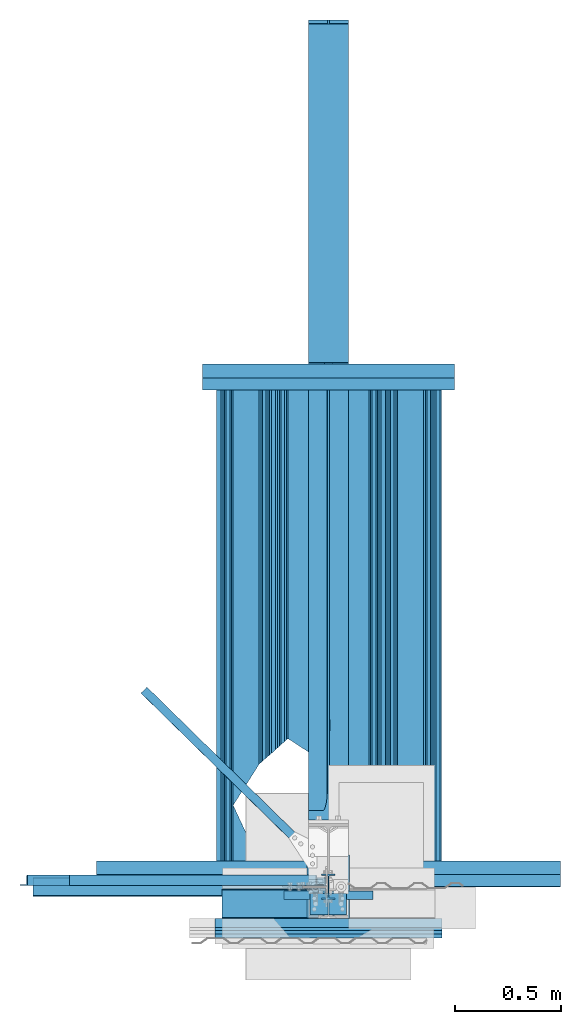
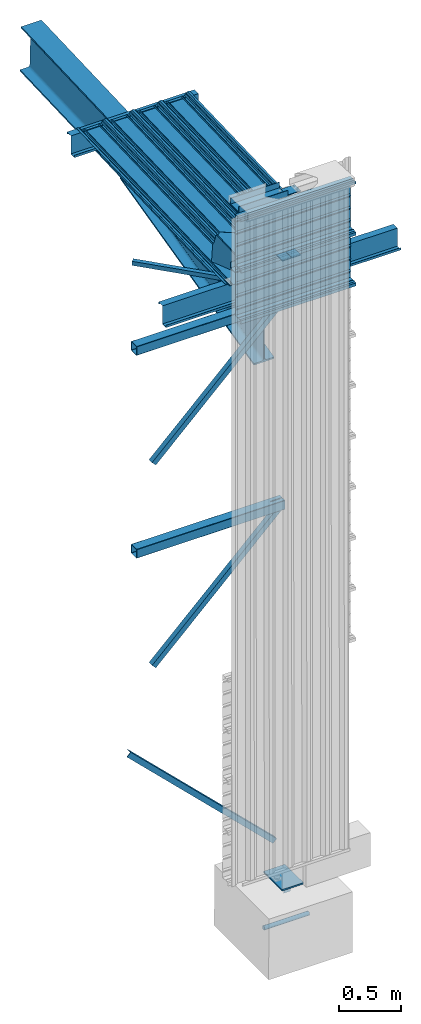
# One storey, part 2 of 18: 21 beams, 3 openings, 19 elements without a shape of their own.
"""IFC2X3 building model written with IfcOpenShell, lengths in millimetres."""

from ifc_helpers import new_model, si_unit, frame, origin_with_axes, origin_2d_with_axis, place, context, subcontext, project, spatial, polyline, rectangle, hollow_rectangle, circle, i_section, l_section, u_section, outline, extrude, clip, halfspace, faceted_brep, material, type_object, element, aggregate, save


model = new_model("IFC2X3")

# Units and contexts
model_context = context("Model", 3, precision=1e-05, world=origin_with_axes())
body_context = subcontext(model_context, "Body", "Model", "MODEL_VIEW")
ifc_project = project(units=[si_unit("LENGTHUNIT", "METRE", prefix="MILLI"), si_unit("AREAUNIT", "SQUARE_METRE"), si_unit("VOLUMEUNIT", "CUBIC_METRE"), si_unit("MASSUNIT", "GRAM", prefix="KILO"), si_unit("TIMEUNIT", "SECOND"), si_unit("PLANEANGLEUNIT", "RADIAN"), si_unit("SOLIDANGLEUNIT", "STERADIAN"), si_unit("THERMODYNAMICTEMPERATUREUNIT", "DEGREE_CELSIUS"), si_unit("LUMINOUSINTENSITYUNIT", "LUMEN")], contexts=[model_context])

# Site, building, storey
site_placement = place(None, origin_with_axes())
site = spatial("IfcSite", under=ifc_project, at=site_placement, Name="Undefined", CompositionType="ELEMENT")
building_placement = place(site_placement, origin_with_axes())
building = spatial("IfcBuilding", under=site, at=building_placement, Name="Undefined", CompositionType="ELEMENT")
storey_placement = place(building_placement, origin_with_axes())
storey = spatial("IfcBuildingStorey", under=building, at=storey_placement, Name="Undefined", CompositionType="ELEMENT", Elevation=0.0)

# Assembly, beam
assembly_1_placement = place(storey_placement, frame((2.44931001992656, -156.908239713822, 5896.01718311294), z_axis=(0.0, 0.999999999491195, 3.190000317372e-05), x_axis=(1.0, 0.0, 0.0)))
assembly_1 = element("IfcElementAssembly", 1, at=assembly_1_placement, inside=storey, Name="plat", PredefinedType="NOTDEFINED")
ifc_material = material(Name="STEEL/S235JR")
beam_type_1 = type_object("IfcBeamType", Name="100*8", PredefinedType="NOTDEFINED")
beam_1_placement = place(storey_placement, frame((2.44931001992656, -156.908239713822, 5896.01718311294), z_axis=(0.0, 0.999999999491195, 3.190000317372e-05), x_axis=(1.0, 0.0, 0.0)))
beam_1 = element("IfcBeam", 2, at=beam_1_placement, type_object=beam_type_1, material=ifc_material, Name="plat", ObjectType="100*8", context=body_context, shape_type="SweptSolid", body=[
    extrude(rectangle(XDim=8.0, YDim=100.0, at=origin_2d_with_axis()), frame((84.0000000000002, 9.09494701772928e-13, 0.0), z_axis=(-1.0, 0.0, 0.0), x_axis=(0.0, -1.0, -6.7762635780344e-21)), (0.0, 0.0, 1.0), 84.0000000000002),
])
aggregate(assembly_1, [beam_1])

# Assembly, beams
assembly_2_placement = place(storey_placement, frame((7.29021710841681e-10, -154.999999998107, 5499.99998252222), z_axis=(0.0, 1.0, 0.0), x_axis=(0.0, 0.0, 1.0)))
assembly_2 = element("IfcElementAssembly", 3, at=assembly_2_placement, inside=storey, Name="Baïonnette", PredefinedType="NOTDEFINED")
beam_2_placement = place(storey_placement, frame((86.3500001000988, -154.999864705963, 6526.00000000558), z_axis=(0.0, 0.999999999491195, 3.190000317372e-05), x_axis=(-1.0, 0.0, 0.0)))
beam_2 = element("IfcBeam", 4, at=beam_2_placement, type_object=beam_type_1, material=ifc_material, Name="ABOUT BAIONNETTE", ObjectType="100*8", context=body_context, shape_type="SweptSolid", body=[
    extrude(rectangle(XDim=8.0, YDim=100.0, at=origin_2d_with_axis()), frame((172.7, 0.0, -1.36584942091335e-23), z_axis=(-1.0, 0.0, 0.0), x_axis=(0.0, -1.0, -6.7762635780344e-21)), (0.0, 0.0, 1.0), 172.7),
])
beam_3_placement = place(storey_placement, frame((-2.45068997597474, -156.908239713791, 5896.01718311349), z_axis=(0.0, 0.999999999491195, 3.190000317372e-05), x_axis=(-1.0, 0.0, 0.0)))
beam_3 = element("IfcBeam", 5, at=beam_3_placement, type_object=beam_type_1, material=ifc_material, Name="plat", ObjectType="100*8", context=body_context, shape_type="SweptSolid", body=[
    extrude(rectangle(XDim=8.0, YDim=100.0, at=origin_2d_with_axis()), frame((84.0000000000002, 9.09494701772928e-13, 0.0), z_axis=(-1.0, 0.0, 0.0), x_axis=(0.0, -1.0, -6.7762635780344e-21)), (0.0, 0.0, 1.0), 84.0000000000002),
])
aggregate(assembly_2, [beam_2, beam_3])

# Assembly, beam
assembly_3_placement = place(storey_placement, frame((-502.349999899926, -155.000950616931, 6559.9999999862), z_axis=(0.0, 0.999999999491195, 3.190000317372e-05), x_axis=(1.0, 0.0, 0.0)))
assembly_3 = element("IfcElementAssembly", 6, at=assembly_3_placement, inside=storey, Name="lisseBasse", PredefinedType="NOTDEFINED")
beam_type_2 = type_object("IfcBeamType", Name="UPF-140*60*4", PredefinedType="NOTDEFINED")
beam_4_placement = place(storey_placement, frame((-502.349999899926, -155.000950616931, 6559.9999999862), z_axis=(0.0, 0.999999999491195, 3.190000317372e-05), x_axis=(1.0, 0.0, 0.0)))
beam_4 = element("IfcBeam", 7, at=beam_4_placement, type_object=beam_type_2, material=ifc_material, Name="LISSE HAUTE", ObjectType="UPF-140*60*4", context=body_context, shape_type="Clipping", body=[
    clip(extrude(u_section(Depth=140.0, FlangeWidth=60.0, WebThickness=4.0, FlangeThickness=4.0, at=origin_2d_with_axis()), frame((504.699999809, 0.0, 0.0), z_axis=(-1.0, 0.0, 0.0), x_axis=(0.0, -1.0, -6.7762635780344e-21)), (0.0, 0.0, 1.0), 504.699999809), halfspace(frame((455.85, -30.0000028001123, -69.9999979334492), z_axis=(1.0, 0.0, 0.0), x_axis=(0.0, 0.0, 1.0)), False)),
])
aggregate(assembly_3, [beam_4])

assembly_4_placement = place(storey_placement, frame((-502.349999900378, -154.978240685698, 5929.55000034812), z_axis=(0.0, 0.999999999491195, 3.190000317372e-05), x_axis=(1.0, 0.0, 0.0)))
assembly_4 = element("IfcElementAssembly", 8, at=assembly_4_placement, inside=storey, Name="lisseBasse", PredefinedType="NOTDEFINED")
beam_5_placement = place(storey_placement, frame((-502.349999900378, -154.978240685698, 5929.55000034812), z_axis=(0.0, 0.999999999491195, 3.190000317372e-05), x_axis=(1.0, 0.0, 0.0)))
beam_5 = element("IfcBeam", 9, at=beam_5_placement, type_object=beam_type_2, material=ifc_material, Name="LISSE BASSE", ObjectType="UPF-140*60*4", context=body_context, shape_type="Clipping", body=[
    clip(extrude(u_section(Depth=140.0, FlangeWidth=60.0, WebThickness=4.0, FlangeThickness=4.0, at=origin_2d_with_axis()), frame((504.699999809, 0.0, 0.0), z_axis=(-1.0, 0.0, 0.0), x_axis=(0.0, -1.0, -6.7762635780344e-21)), (0.0, 0.0, 1.0), 504.699999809), halfspace(frame((455.85, -30.0000028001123, -69.9999979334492), z_axis=(1.0, 0.0, 0.0), x_axis=(0.0, 0.0, 1.0)), False)),
])
aggregate(assembly_4, [beam_5])

assembly_5_placement = place(storey_placement, frame((209.999999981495, -115.001019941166, -691.000000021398), z_axis=(0.0, 0.999999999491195, 3.190000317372e-05), x_axis=(-1.0, 0.0, 0.0)))
assembly_5 = element("IfcElementAssembly", 10, at=assembly_5_placement, inside=storey, Name="clé", PredefinedType="NOTDEFINED")
beam_type_3 = type_object("IfcBeamType", Name="D40", PredefinedType="NOTDEFINED")
beam_6_placement = place(storey_placement, frame((209.999999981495, -115.001019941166, -691.000000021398), z_axis=(0.0, 0.999999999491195, 3.190000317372e-05), x_axis=(-1.0, 0.0, 0.0)))
beam_6 = element("IfcBeam", 11, at=beam_6_placement, type_object=beam_type_3, material=ifc_material, Name="CLE", ObjectType="D40", context=body_context, shape_type="SweptSolid", body=[
    extrude(circle(Radius=20.0, at=origin_2d_with_axis()), frame((419.99999996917, -1.13686837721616e-13, 0.0), z_axis=(-1.0, 0.0, 0.0), x_axis=(0.0, -1.0, -6.7762635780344e-21)), (0.0, 0.0, 1.0), 419.99999996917),
])
aggregate(assembly_5, [beam_6])

assembly_6_placement = place(storey_placement, frame((-536.49999999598, -270.97606509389, 5779.99853120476), z_axis=(0.0, 0.999999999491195, 3.190000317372e-05), x_axis=(1.0, 0.0, 0.0)))
assembly_6 = element("IfcElementAssembly", 12, at=assembly_6_placement, inside=storey, Name="bac", PredefinedType="NOTDEFINED")
beam_type_4 = type_object("IfcBeamType", Name="ARCLAD_FPB_MURESCO_1.500.90_BS_75", PredefinedType="NOTDEFINED")
beam_7_placement = place(storey_placement, frame((-536.49999999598, -270.97606509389, 5779.99853120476), z_axis=(0.0, 0.999999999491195, 3.190000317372e-05), x_axis=(1.0, 0.0, 0.0)))
beam_7 = element("IfcBeam", 13, at=beam_7_placement, type_object=beam_type_4, material=ifc_material, Name="BAC", ObjectType="ARCLAD_FPB_MURESCO_1.500.90_BS_75", context=body_context, shape_type="SweptSolid", body=[
    extrude(outline(polyline([(-278.0, -36.0), (-279.0, -36.0), (-279.0, -46.0), (-249.0, -46.0), (-249.0, -26.3500003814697), (-241.050003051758, -10.6700000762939), (-249.0, 5.01999998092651), (-249.0, 45.0), (-200.679992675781, 45.0), (-185.0, 37.0499992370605), (-169.320007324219, 45.0), (-77.3499984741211, 45.0), (-61.6699981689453, 37.0499992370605), (-45.9799995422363, 45.0), (45.9799995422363, 45.0), (61.6699981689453, 37.0499992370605), (77.3499984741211, 45.0), (169.320007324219, 45.0), (185.0, 37.0499992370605), (200.679992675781, 45.0), (249.0, 45.0), (249.0, 5.01999998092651), (241.050003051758, -10.6700000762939), (249.0, -26.3500003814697), (249.0, -44.0), (230.330001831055, -44.0), (225.949996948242, -40.7400016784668), (225.350006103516, -41.5400009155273), (230.0, -45.0), (250.0, -45.0), (250.0, -26.1100006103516), (242.169998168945, -10.6700000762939), (250.0, 4.78000020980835), (250.0, 46.0), (200.440002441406, 46.0), (185.0, 38.1699981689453), (169.559997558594, 46.0), (77.1100006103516, 46.0), (61.6699981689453, 38.1699981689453), (46.2200012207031, 46.0), (-46.2200012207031, 46.0), (-61.6699981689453, 38.1699981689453), (-77.1100006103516, 46.0), (-169.559997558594, 46.0), (-185.0, 38.1699981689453), (-200.440002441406, 46.0), (-250.0, 46.0), (-250.0, 4.78000020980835), (-242.169998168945, -10.6700000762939), (-250.0, -26.1100006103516), (-250.0, -45.0), (-278.0, -45.0), (-278.0, -36.0)])), frame((1073.0, 0.0, -3.55441926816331e-28), z_axis=(-1.0, 0.0, 0.0), x_axis=(0.0, -1.0, -6.7762635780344e-21)), (0.0, 0.0, 1.0), 1073.0),
])
aggregate(assembly_6, [beam_7])

assembly_7_placement = place(storey_placement, frame((-536.499999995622, -270.9920150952, 6279.99853094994), z_axis=(0.0, 0.999999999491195, 3.190000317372e-05), x_axis=(1.0, 0.0, 0.0)))
assembly_7 = element("IfcElementAssembly", 14, at=assembly_7_placement, inside=storey, Name="bac", PredefinedType="NOTDEFINED")
beam_8_placement = place(storey_placement, frame((-536.499999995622, -270.9920150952, 6279.99853094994), z_axis=(0.0, 0.999999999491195, 3.190000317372e-05), x_axis=(1.0, 0.0, 0.0)))
beam_8 = element("IfcBeam", 15, at=beam_8_placement, type_object=beam_type_4, material=ifc_material, Name="BAC", ObjectType="ARCLAD_FPB_MURESCO_1.500.90_BS_75", context=body_context, shape_type="SweptSolid", body=[
    extrude(outline(polyline([(-278.0, -36.0), (-279.0, -36.0), (-279.0, -46.0), (-249.0, -46.0), (-249.0, -26.3500003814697), (-241.050003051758, -10.6700000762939), (-249.0, 5.01999998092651), (-249.0, 45.0), (-200.679992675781, 45.0), (-185.0, 37.0499992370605), (-169.320007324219, 45.0), (-77.3499984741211, 45.0), (-61.6699981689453, 37.0499992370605), (-45.9799995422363, 45.0), (45.9799995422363, 45.0), (61.6699981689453, 37.0499992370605), (77.3499984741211, 45.0), (169.320007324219, 45.0), (185.0, 37.0499992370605), (200.679992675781, 45.0), (249.0, 45.0), (249.0, 5.01999998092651), (241.050003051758, -10.6700000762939), (249.0, -26.3500003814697), (249.0, -44.0), (230.330001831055, -44.0), (225.949996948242, -40.7400016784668), (225.350006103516, -41.5400009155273), (230.0, -45.0), (250.0, -45.0), (250.0, -26.1100006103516), (242.169998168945, -10.6700000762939), (250.0, 4.78000020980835), (250.0, 46.0), (200.440002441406, 46.0), (185.0, 38.1699981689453), (169.559997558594, 46.0), (77.1100006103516, 46.0), (61.6699981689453, 38.1699981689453), (46.2200012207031, 46.0), (-46.2200012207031, 46.0), (-61.6699981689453, 38.1699981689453), (-77.1100006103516, 46.0), (-169.559997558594, 46.0), (-185.0, 38.1699981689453), (-200.440002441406, 46.0), (-250.0, 46.0), (-250.0, 4.78000020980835), (-242.169998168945, -10.6700000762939), (-250.0, -26.1100006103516), (-250.0, -45.0), (-278.0, -45.0), (-278.0, -36.0)])), frame((1073.0, 0.0, -3.55441926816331e-28), z_axis=(-1.0, 0.0, 0.0), x_axis=(0.0, -1.0, -6.7762635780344e-21)), (0.0, 0.0, 1.0), 1073.0),
])
aggregate(assembly_7, [beam_8])

assembly_8_placement = place(storey_placement, frame((-3.0809866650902e-08, -75.0002552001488, -300.000000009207), z_axis=(0.0, 1.0, 0.0), x_axis=(2.350712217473e-13, -3.38692037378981e-13, -1.0)))
assembly_8 = element("IfcElementAssembly", 16, at=assembly_8_placement, inside=storey, Name="BECHE", PredefinedType="NOTDEFINED")
beam_type_5 = type_object("IfcBeamType", Name="IPE120", PredefinedType="NOTDEFINED")
beam_9_placement = place(storey_placement, frame((-3.0809866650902e-08, -75.0002552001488, -300.000000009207), z_axis=(0.0, 1.0, 0.0), x_axis=(2.350712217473e-13, -3.38692037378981e-13, -1.0)))
beam_9 = element("IfcBeam", 17, at=beam_9_placement, type_object=beam_type_5, material=ifc_material, Name="BECHE", ObjectType="IPE120", context=body_context, shape_type="SweptSolid", body=[
    extrude(i_section(OverallWidth=64.0, OverallDepth=120.0, WebThickness=4.400000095, FlangeThickness=6.300000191, FilletRadius=7.0, at=origin_2d_with_axis()), frame((100.0, 0.0, -5.04870979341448e-27), z_axis=(-1.0, 0.0, 0.0), x_axis=(0.0, -1.0, -6.7762635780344e-21)), (0.0, 0.0, 1.0), 100.0),
])
aggregate(assembly_8, [beam_9])

assembly_9_placement = place(storey_placement, frame((2.06348271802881e-11, 3.86737777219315e-11, -299.999999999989), z_axis=(0.0, 1.0, 0.0), x_axis=(0.0, 0.0, 1.0)))
assembly_9 = element("IfcElementAssembly", 18, at=assembly_9_placement, inside=storey, Name="POTEAU", PredefinedType="NOTDEFINED")
beam_type_6 = type_object("IfcBeamType", Name="PL15*200", PredefinedType="NOTDEFINED")
beam_10_placement = place(storey_placement, frame((-1.33571163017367e-10, -225.000000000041, -292.500000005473), z_axis=(-1.0, 0.0, 0.0), x_axis=(0.0, 1.0, 0.0)))
beam_10 = element("IfcBeam", 19, at=beam_10_placement, type_object=beam_type_6, material=ifc_material, Name="PLATINE", ObjectType="PL15*200", context=body_context, shape_type="SweptSolid", body=[
    extrude(rectangle(XDim=15.0, YDim=200.0, at=origin_2d_with_axis()), frame((300.0, 0.0, 4.94369662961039e-28), z_axis=(-1.0, 0.0, 0.0), x_axis=(0.0, -1.0, -6.7762635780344e-21)), (0.0, 0.0, 1.0), 300.0),
])
aggregate(assembly_9, [beam_10])

# Assembly, beam, opening
assembly_10_placement = place(storey_placement, frame((9.73315339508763e-06, 2359.79058017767, 5789.63378306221), z_axis=(-7.16786899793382e-13, 0.0332700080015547, -0.999446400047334), x_axis=(1.85679638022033e-14, -0.999446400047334, -0.0332700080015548)))
assembly_10 = element("IfcElementAssembly", 20, at=assembly_10_placement, inside=storey, Name="bac", PredefinedType="NOTDEFINED")
beam_type_7 = type_object("IfcBeamType", Name="ARCLAD_TSE_TOITESCO_4.1035.34_SRP_75", PredefinedType="NOTDEFINED")
beam_11_placement = place(storey_placement, frame((9.73315339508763e-06, 2359.79058017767, 5789.63378306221), z_axis=(-7.16786899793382e-13, 0.0332700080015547, -0.999446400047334), x_axis=(1.85679638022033e-14, -0.999446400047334, -0.0332700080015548)))
beam_11 = element("IfcBeam", 21, at=beam_11_placement, type_object=beam_type_7, material=ifc_material, Name="BAC SUPPORT", ObjectType="ARCLAD_TSE_TOITESCO_4.1035.34_SRP_75", context=body_context, shape_type="SweptSolid", body=[
    extrude(outline(polyline([(-527.5, -15.5), (-527.5, -16.5), (-507.5, -16.5), (-498.529998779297, -0.839999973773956), (-490.200012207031, -0.109999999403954), (-482.5, 15.5), (-465.5, 15.5), (-457.5, 11.5), (-449.5, 15.5), (-326.75, 15.5), (-318.75, 11.5), (-310.75, 15.5), (-293.75, 15.5), (-286.049987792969, -0.109999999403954), (-277.720001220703, -0.839999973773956), (-268.75, -16.5), (-248.75, -16.5), (-239.779998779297, -0.839999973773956), (-231.449996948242, -0.109999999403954), (-223.75, 15.5), (-206.75, 15.5), (-198.75, 11.5), (-190.75, 15.5), (-68.0, 15.5), (-60.0, 11.5), (-52.0, 15.5), (-35.0, 15.5), (-27.2999992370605, -0.109999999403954), (-18.9699993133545, -0.839999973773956), (-10.0, -16.5), (10.0, -16.5), (18.9699993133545, -0.839999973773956), (27.2999992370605, -0.109999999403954), (35.0, 15.5), (52.0, 15.5), (60.0, 11.5), (68.0, 15.5), (190.75, 15.5), (198.75, 11.5), (206.75, 15.5), (223.75, 15.5), (231.449996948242, -0.109999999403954), (239.779998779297, -0.839999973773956), (248.75, -16.5), (268.75, -16.5), (277.720001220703, -0.839999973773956), (286.049987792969, -0.109999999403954), (293.75, 15.5), (310.75, 15.5), (318.75, 11.5), (326.75, 15.5), (449.5, 15.5), (457.5, 11.5), (465.5, 15.5), (482.5, 15.5), (490.200012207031, -0.109999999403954), (498.529998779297, -0.839999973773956), (507.5, -16.5), (527.5, -16.5), (533.22998046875, -6.5), (532.080017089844, -6.5), (526.919982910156, -15.5), (508.079986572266, -15.5), (499.140014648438, 0.109999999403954), (490.850006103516, 0.839999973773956), (483.119995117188, 16.5), (465.260009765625, 16.5), (457.5, 12.6199998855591), (449.739990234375, 16.5), (326.510009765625, 16.5), (318.75, 12.6199998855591), (310.989990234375, 16.5), (293.130004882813, 16.5), (285.399993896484, 0.839999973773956), (277.109985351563, 0.109999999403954), (268.170013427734, -15.5), (249.330001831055, -15.5), (240.389999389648, 0.109999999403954), (232.100006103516, 0.839999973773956), (224.369995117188, 16.5), (206.509994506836, 16.5), (198.75, 12.6199998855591), (190.990005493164, 16.5), (67.7600021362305, 16.5), (60.0, 12.6199998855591), (52.2400016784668, 16.5), (34.3800010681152, 16.5), (26.6499996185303, 0.839999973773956), (18.3600006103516, 0.109999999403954), (9.42000007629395, -15.5), (-9.42000007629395, -15.5), (-18.3600006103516, 0.109999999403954), (-26.6499996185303, 0.839999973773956), (-34.3800010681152, 16.5), (-52.2400016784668, 16.5), (-60.0, 12.6199998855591), (-67.7600021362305, 16.5), (-190.990005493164, 16.5), (-198.75, 12.6199998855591), (-206.509994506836, 16.5), (-224.369995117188, 16.5), (-232.100006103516, 0.839999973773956), (-240.389999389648, 0.109999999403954), (-249.330001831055, -15.5), (-268.170013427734, -15.5), (-277.109985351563, 0.109999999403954), (-285.399993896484, 0.839999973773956), (-293.130004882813, 16.5), (-310.989990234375, 16.5), (-318.75, 12.6199998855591), (-326.510009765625, 16.5), (-449.739990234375, 16.5), (-457.5, 12.6199998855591), (-465.260009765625, 16.5), (-483.119995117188, 16.5), (-490.850006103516, 0.839999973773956), (-499.140014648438, 0.109999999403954), (-508.079986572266, -15.5), (-527.5, -15.5)])), frame((2406.69464593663, 2.55629373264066e-09, -3.66553347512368e-10), z_axis=(-1.0, 0.0, 0.0), x_axis=(0.0, -1.0, -6.7762635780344e-21)), (0.0, 0.0, 1.0), 2406.69464593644),
])
opening_1_placement = place(storey_placement, frame((9.73315339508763e-06, 2359.79058017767, 5789.63378306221), z_axis=(-7.16786899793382e-13, 0.0332700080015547, -0.999446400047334), x_axis=(1.85679638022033e-14, -0.999446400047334, -0.0332700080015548)))
element("IfcOpeningElement", 22, at=opening_1_placement, cuts=beam_11, ObjectType="Recess", context=body_context, shape_type="SweptSolid", body=[
    extrude(outline(polyline([(0.0, 0.0), (181.73420715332, -4.09272615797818e-12), (402.506378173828, 63.4364814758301), (486.87939453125, 343.249694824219), (339.845733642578, 471.089630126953), (66.9023513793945, 388.326232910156), (-59.6781616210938, 220.231338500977), (0.0, 0.0)])), frame((1736.34739828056, 190.990003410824, 19.4999861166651), z_axis=(2.350712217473e-13, -3.38692037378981e-13, -1.0), x_axis=(0.664795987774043, 0.747024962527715, 3.40381642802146e-08)), (0.0, 0.0, 1.0), 39.0),
])
aggregate(assembly_10, [beam_11])

assembly_11_placement = place(storey_placement, frame((-9.73032716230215e-06, -74.9999991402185, 3413.99941189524), z_axis=(0.0, 1.0, 0.0), x_axis=(-1.0, 0.0, 0.0)))
assembly_11 = element("IfcElementAssembly", 23, at=assembly_11_placement, inside=storey, Name="buton", PredefinedType="NOTDEFINED")
beam_type_8 = type_object("IfcBeamType", Name="TUBE-C-90*90*3", PredefinedType="NOTDEFINED")
beam_12_placement = place(storey_placement, frame((-9.73032716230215e-06, -74.9999991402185, 3413.99941189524), z_axis=(0.0, 1.0, 0.0), x_axis=(-1.0, 0.0, 0.0)))
beam_12 = element("IfcBeam", 24, at=beam_12_placement, type_object=beam_type_8, material=ifc_material, Name="TRAVERSE CV", ObjectType="TUBE-C-90*90*3", context=body_context, shape_type="Clipping", body=[
    clip(clip(extrude(hollow_rectangle(XDim=90.0, YDim=90.0, WallThickness=3.0, InnerFilletRadius=3.0, OuterFilletRadius=6.0, at=origin_2d_with_axis()), frame((1394.99998077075, 4.09272615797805e-12, 1.42108547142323e-14), z_axis=(-1.0, 0.0, 0.0), x_axis=(0.0, -1.0, -6.7762635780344e-21)), (0.0, 0.0, 1.0), 1394.99998077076), halfspace(frame((10.7000000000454, 45.0, -44.9999999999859), z_axis=(-1.0, 0.0, 0.0), x_axis=(0.0, 0.0, 1.0)), False)), halfspace(frame((10.7000000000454, 45.0, -44.9999999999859), z_axis=(-1.0, 0.0, 0.0), x_axis=(0.0, 0.0, 1.0)), False)),
])
opening_2_placement = place(storey_placement, frame((-9.73032716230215e-06, -74.9999991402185, 3413.99941189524), z_axis=(0.0, 1.0, 0.0), x_axis=(-1.0, 0.0, 0.0)))
element("IfcOpeningElement", 25, at=opening_2_placement, cuts=beam_12, ObjectType="Recess", context=body_context, shape_type="Brep", body=[
    faceted_brep([(122.781905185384, -117.844013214, 3.00000000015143), (87.8685751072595, -153.635879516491, 3.00000000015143), (87.8685751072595, -153.635879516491, -4.99999999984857), (122.781905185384, -117.844013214, -4.99999999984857), (122.781905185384, 55.000000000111, 3.00000000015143), (122.781905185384, 55.000000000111, -4.99999999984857), (10.7000000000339, 55.0000000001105, 3.00000000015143), (10.7000000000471, -153.635879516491, 3.00000000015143), (10.7000000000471, -153.635879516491, -4.99999999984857), (10.7000000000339, 55.0000000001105, -4.99999999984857)], [[[0, 1, 2, 3]], [[4, 0, 3, 5]], [[1, 0, 4, 6, 7]], [[2, 1, 7, 8]], [[5, 3, 2, 8, 9]], [[4, 5, 9, 6]], [[8, 7, 6, 9]]]),
])
aggregate(assembly_11, [beam_12])

assembly_12_placement = place(storey_placement, frame((-9.72851250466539e-06, -74.9999991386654, 5413.9994118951), z_axis=(0.0, 1.0, 0.0), x_axis=(-1.0, 0.0, 0.0)))
assembly_12 = element("IfcElementAssembly", 26, at=assembly_12_placement, inside=storey, Name="buton", PredefinedType="NOTDEFINED")
beam_13_placement = place(storey_placement, frame((-9.72851250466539e-06, -74.9999991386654, 5413.9994118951), z_axis=(0.0, 1.0, 0.0), x_axis=(-1.0, 0.0, 0.0)))
beam_13 = element("IfcBeam", 27, at=beam_13_placement, type_object=beam_type_8, material=ifc_material, Name="BUTON", ObjectType="TUBE-C-90*90*3", context=body_context, shape_type="Clipping", body=[
    clip(extrude(hollow_rectangle(XDim=90.0, YDim=90.0, WallThickness=3.0, InnerFilletRadius=3.0, OuterFilletRadius=6.0, at=origin_2d_with_axis()), frame((1394.99998077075, 4.09272615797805e-12, 1.42108547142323e-14), z_axis=(-1.0, 0.0, 0.0), x_axis=(0.0, -1.0, -6.7762635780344e-21)), (0.0, 0.0, 1.0), 1394.99998077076), halfspace(frame((10.7000000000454, 45.0, -44.9999999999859), z_axis=(-1.0, 0.0, 0.0), x_axis=(0.0, 0.0, 1.0)), False)),
])
opening_3_placement = place(storey_placement, frame((-9.72851250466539e-06, -74.9999991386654, 5413.9994118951), z_axis=(0.0, 1.0, 0.0), x_axis=(-1.0, 0.0, 0.0)))
element("IfcOpeningElement", 28, at=opening_3_placement, cuts=beam_13, ObjectType="Recess", context=body_context, shape_type="Brep", body=[
    faceted_brep([(122.781905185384, -117.844013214, 3.00000000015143), (87.8685751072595, -153.635879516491, 3.00000000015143), (87.8685751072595, -153.635879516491, -4.99999999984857), (122.781905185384, -117.844013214, -4.99999999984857), (151.418654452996, 55.000000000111, 3.00000000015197), (151.418654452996, 55.000000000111, -4.99999999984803), (10.7000000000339, 55.0000000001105, 3.00000000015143), (10.7000000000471, -153.635879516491, 3.00000000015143), (10.7000000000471, -153.635879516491, -4.99999999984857), (10.7000000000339, 55.0000000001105, -4.99999999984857)], [[[0, 1, 2, 3]], [[4, 0, 3, 5]], [[1, 0, 4, 6, 7]], [[2, 1, 7, 8]], [[5, 3, 2, 8, 9]], [[4, 5, 9, 6]], [[8, 7, 6, 9]]]),
])
aggregate(assembly_12, [beam_13])

# Assembly, beam
assembly_13_placement = place(storey_placement, frame((-9.73030894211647e-06, -43.9999991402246, 3380.99941189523), z_axis=(0.0, 1.0, 0.0), x_axis=(-0.715837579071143, -2.17631935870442e-13, -0.69826682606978)))
assembly_13 = element("IfcElementAssembly", 29, at=assembly_13_placement, inside=storey, Name="CV", PredefinedType="NOTDEFINED")
beam_type_9 = type_object("IfcBeamType", Name="L50*5", PredefinedType="NOTDEFINED")
beam_14_placement = place(storey_placement, frame((-9.73030894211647e-06, -43.9999991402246, 3380.99941189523), z_axis=(0.0, 1.0, 0.0), x_axis=(-0.715837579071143, -2.17631935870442e-13, -0.69826682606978)))
beam_14 = element("IfcBeam", 30, at=beam_14_placement, type_object=beam_type_9, material=ifc_material, Name="DIAGONALE CV", ObjectType="L50*5", context=body_context, shape_type="Clipping", body=[
    clip(clip(extrude(l_section(Depth=50.0, Width=50.0, Thickness=5.0, FilletRadius=7.0, EdgeRadius=3.5, at=origin_2d_with_axis()), frame((1683.30820675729, 9.34423764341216e-14, -8.49853462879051e-26), z_axis=(-1.0, 0.0, 0.0), x_axis=(0.0, -1.0, -6.7762635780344e-21)), (0.0, 0.0, 1.0), 1683.30820675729), halfspace(frame((57.1356628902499, 24.9999979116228, -25.0000000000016), z_axis=(-1.0, 0.0, 0.0), x_axis=(0.0, 0.0, 1.0)), False)), halfspace(frame((57.1356628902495, 24.9999979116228, -28.0000000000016), z_axis=(-1.0, 0.0, 0.0), x_axis=(0.0, 0.0, 1.0)), False)),
])
aggregate(assembly_13, [beam_14])

assembly_14_placement = place(storey_placement, frame((9.72910256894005e-06, -43.9999991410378, 15.9994118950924), z_axis=(0.0, 1.0, 0.0), x_axis=(-0.715837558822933, 2.48489377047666e-13, 0.698266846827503)))
assembly_14 = element("IfcElementAssembly", 31, at=assembly_14_placement, inside=storey, Name="CV", PredefinedType="NOTDEFINED")
beam_15_placement = place(storey_placement, frame((9.72910256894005e-06, -43.9999991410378, 15.9994118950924), z_axis=(0.0, 1.0, 0.0), x_axis=(-0.715837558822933, 2.48489377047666e-13, 0.698266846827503)))
beam_15 = element("IfcBeam", 32, at=beam_15_placement, type_object=beam_type_9, material=ifc_material, Name="DIAGONALE CV", ObjectType="L50*5", context=body_context, shape_type="Clipping", body=[
    clip(extrude(l_section(Depth=50.0, Width=50.0, Thickness=5.0, FilletRadius=7.0, EdgeRadius=3.5, at=origin_2d_with_axis()), frame((2009.87820675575, 0.0, 7.10542735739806e-15), z_axis=(-1.0, 0.0, 0.0), x_axis=(0.0, -1.0, -6.7762635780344e-21)), (0.0, 0.0, 1.0), 2009.87820675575), halfspace(frame((107.785181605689, 25.0000008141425, -24.9999999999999), z_axis=(-0.99999999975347, -7.55337907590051e-09, 2.22049555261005e-05), x_axis=(2.22049555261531e-05, -6.96070349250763e-09, 0.99999999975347)), False)),
])
aggregate(assembly_14, [beam_15])

assembly_15_placement = place(storey_placement, frame((-9.72854169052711e-06, -43.9999991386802, 5380.99941189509), z_axis=(0.0, 1.0, 0.0), x_axis=(-0.715837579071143, -2.17631935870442e-13, -0.69826682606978)))
assembly_15 = element("IfcElementAssembly", 33, at=assembly_15_placement, inside=storey, Name="CV", PredefinedType="NOTDEFINED")
beam_16_placement = place(storey_placement, frame((-9.72854169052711e-06, -43.9999991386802, 5380.99941189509), z_axis=(0.0, 1.0, 0.0), x_axis=(-0.715837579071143, -2.17631935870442e-13, -0.69826682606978)))
beam_16 = element("IfcBeam", 34, at=beam_16_placement, type_object=beam_type_9, material=ifc_material, Name="DIAGONALE CV", ObjectType="L50*5", context=body_context, shape_type="Clipping", body=[
    clip(extrude(l_section(Depth=50.0, Width=50.0, Thickness=5.0, FilletRadius=7.0, EdgeRadius=3.5, at=origin_2d_with_axis()), frame((1683.30820675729, 9.34423764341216e-14, -8.49853462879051e-26), z_axis=(-1.0, 0.0, 0.0), x_axis=(0.0, -1.0, -6.7762635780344e-21)), (0.0, 0.0, 1.0), 1683.30820675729), halfspace(frame((57.1356628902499, 24.9999979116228, -25.0000000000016), z_axis=(-1.0, 0.0, 0.0), x_axis=(0.0, 0.0, 1.0)), False)),
])
aggregate(assembly_15, [beam_16])

# Assembly, beams
assembly_16_placement = place(storey_placement, frame((6.79351009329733e-10, 8.99280863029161, 5275.17920428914), z_axis=(1.5865100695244e-13, -0.0399680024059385, 0.999200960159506), x_axis=(-7.50761682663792e-14, 0.999200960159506, 0.0399680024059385)))
assembly_16 = element("IfcElementAssembly", 35, at=assembly_16_placement, inside=storey, Name="POUTRE", PredefinedType="NOTDEFINED")
beam_type_10 = type_object("IfcBeamType", Name="IPE450", PredefinedType="NOTDEFINED")
beam_17_placement = place(storey_placement, frame((5.94640147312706e-10, 186.548579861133, 4820.18130218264), z_axis=(1.7039530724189e-13, -0.237561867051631, 0.971372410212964), x_axis=(-4.20678049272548e-14, 0.971372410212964, 0.237561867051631)))
beam_17 = element("IfcBeam", 36, at=beam_17_placement, type_object=beam_type_10, material=ifc_material, Name="JARRET", ObjectType="IPE450", context=body_context, shape_type="Clipping", body=[
    clip(clip(clip(extrude(i_section(OverallWidth=190.0, OverallDepth=450.0, WebThickness=9.399999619, FlangeThickness=14.60000038, FilletRadius=21.0, at=origin_2d_with_axis()), frame((3379.70482251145, 1.22880198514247e-26, 9.38056527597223e-14), z_axis=(-1.0, 0.0, 0.0), x_axis=(0.0, -1.0, -6.7762635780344e-21)), (0.0, 0.0, 1.0), 4425.69857771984), halfspace(frame((453.262555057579, -3.6189151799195e-25, 1628.35612139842), z_axis=(-0.97137241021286, -4.3692577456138e-16, 0.237561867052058), x_axis=(0.0, -1.0, -6.7762635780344e-21)), False)), halfspace(frame((1691.96780957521, -95.0, -101.221532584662), z_axis=(0.198548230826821, -5.1667208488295e-15, 0.980091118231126), x_axis=(-0.980091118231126, 0.0, 0.198548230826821)), False)), halfspace(frame((2022.66623834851, 2.58493941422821e-25, -1046.83865357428), z_axis=(0.97137241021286, 1.08030629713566e-16, -0.237561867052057), x_axis=(0.0, -1.0, -6.7762635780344e-21)), False)),
])
beam_18_placement = place(storey_placement, frame((6.79351009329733e-10, 8.99280863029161, 5275.17920428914), z_axis=(1.5865100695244e-13, -0.0399680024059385, 0.999200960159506), x_axis=(-7.50761682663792e-14, 0.999200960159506, 0.0399680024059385)))
beam_18 = element("IfcBeam", 37, at=beam_18_placement, type_object=beam_type_10, material=ifc_material, Name="POUTRE", ObjectType="IPE450", context=body_context, shape_type="Clipping", body=[
    clip(extrude(i_section(OverallWidth=190.0, OverallDepth=450.0, WebThickness=9.399999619, FlangeThickness=14.60000038, FilletRadius=21.0, at=origin_2d_with_axis()), frame((4003.19872102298, -9.47390090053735e-27, 0.0), z_axis=(-1.0, 0.0, 0.0), x_axis=(0.0, -1.0, -6.7762635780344e-21)), (0.0, 0.0, 1.0), 3799.24773207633), halfspace(frame((222.191931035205, -4.93085999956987e-13, -225.000000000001), z_axis=(0.999200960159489, 0.0, -0.0399680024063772), x_axis=(0.0, -1.0, -6.7762635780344e-21)), True)),
])
aggregate(assembly_16, [beam_17, beam_18])

# Assembly, beam
assembly_17_placement = place(storey_placement, frame((-1094.99999999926, -16.7489171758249, 5603.99858221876), z_axis=(0.0, 0.0, 1.0), x_axis=(1.0, 0.0, 0.0)))
assembly_17 = element("IfcElementAssembly", 38, at=assembly_17_placement, inside=storey, Name="POUTRE", PredefinedType="NOTDEFINED")
beam_type_11 = type_object("IfcBeamType", Name="Z.180.150.65", PredefinedType="NOTDEFINED")
beam_19_placement = place(storey_placement, frame((-1094.99999999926, -16.7489171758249, 5603.99858221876), z_axis=(0.0, 0.0, 1.0), x_axis=(1.0, 0.0, 0.0)))
beam_19 = element("IfcBeam", 39, at=beam_19_placement, type_object=beam_type_11, material=ifc_material, Name="PANNE SABLIERE", ObjectType="Z.180.150.65", context=body_context, shape_type="SweptSolid", body=[
    extrude(outline(polyline([(58.75, -90.0), (58.75, -67.5), (57.25, -67.5), (57.25, -88.5), (0.75, -88.5), (0.75, 90.0), (-64.25, 90.0), (-64.25, 67.5), (-62.75, 67.5), (-62.75, 88.5), (-0.75, 88.5), (-0.75, -90.0), (58.75, -90.0)])), frame((2190.0, -7.39494621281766e-27, 0.0), z_axis=(-1.0, 0.0, 0.0), x_axis=(0.0, -1.0, -6.7762635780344e-21)), (0.0, 0.0, 1.0), 2190.0),
])
aggregate(assembly_17, [beam_19])

assembly_18_placement = place(storey_placement, frame((-594.999999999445, 2328.58953392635, 5683.14291746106), z_axis=(0.0, 0.0, 1.0), x_axis=(1.0, 0.0, 0.0)))
assembly_18 = element("IfcElementAssembly", 40, at=assembly_18_placement, inside=storey, Name="POUTRE", PredefinedType="NOTDEFINED")
beam_20_placement = place(storey_placement, frame((-594.999999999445, 2328.58953392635, 5683.14291746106), z_axis=(0.0, 0.0, 1.0), x_axis=(1.0, 0.0, 0.0)))
beam_20 = element("IfcBeam", 41, at=beam_20_placement, type_object=beam_type_11, material=ifc_material, Name="PANNE", ObjectType="Z.180.150.65", context=body_context, shape_type="SweptSolid", body=[
    extrude(outline(polyline([(58.75, -90.0), (58.75, -67.5), (57.25, -67.5), (57.25, -88.5), (0.75, -88.5), (0.75, 90.0), (-64.25, 90.0), (-64.25, 67.5), (-62.75, 67.5), (-62.75, 88.5), (-0.75, 88.5), (-0.75, -90.0), (58.75, -90.0)])), frame((1190.0, -3.29095099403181e-27, -9.09494701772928e-13), z_axis=(-1.0, 0.0, 0.0), x_axis=(0.0, -1.0, -6.7762635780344e-21)), (0.0, 0.0, 1.0), 1190.0),
])
aggregate(assembly_18, [beam_20])

assembly_19_placement = place(storey_placement, frame((-871.289396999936, 854.106605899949, 5519.62368313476), z_axis=(-0.0262587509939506, 0.0102337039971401, -0.999602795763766), x_axis=(0.713746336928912, -0.69992468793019, -0.0259152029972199)))
assembly_19 = element("IfcElementAssembly", 42, at=assembly_19_placement, inside=storey, Name="diag", PredefinedType="NOTDEFINED")
beam_type_12 = type_object("IfcBeamType", Name="L40*4", PredefinedType="NOTDEFINED")
beam_21_placement = place(storey_placement, frame((-871.289396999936, 854.106605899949, 5519.62368313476), z_axis=(-0.0262587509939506, 0.0102337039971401, -0.999602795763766), x_axis=(0.713746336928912, -0.69992468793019, -0.0259152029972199)))
beam_21 = element("IfcBeam", 43, at=beam_21_placement, type_object=beam_type_12, material=ifc_material, Name="DIAGONALE PAV", ObjectType="L40*4", context=body_context, shape_type="Clipping", body=[
    clip(extrude(l_section(Depth=40.0, Width=40.0, Thickness=4.0, FilletRadius=6.0, EdgeRadius=3.0, at=origin_2d_with_axis()), frame((1219.99116023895, -1.49178117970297e-14, 0.0), z_axis=(-1.0, 0.0, 0.0), x_axis=(0.0, -1.0, -6.7762635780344e-21)), (0.0, 0.0, 1.0), 1219.99116023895), halfspace(frame((1057.5153421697, -20.0843512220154, -12.3992783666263), z_axis=(0.999664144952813, 0.000287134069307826, -0.0259136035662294), x_axis=(0.0259136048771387, -8.45472008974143e-07, 0.999664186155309)), False)),
])
aggregate(assembly_19, [beam_21])

save(model, "model.ifc")
